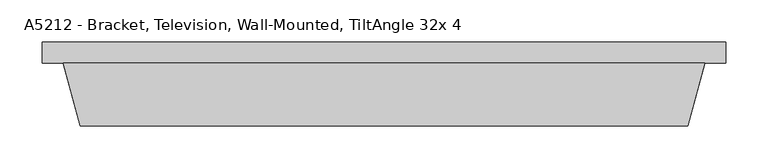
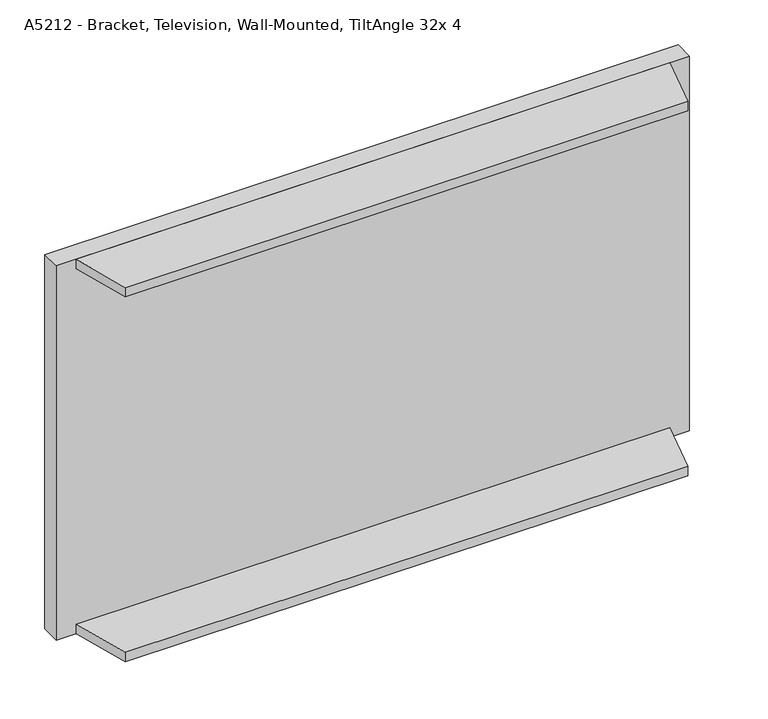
"""IFC4 building model written with IfcOpenShell, lengths in millimetres: proxy geometry."""

from ifc_helpers import new_model, si_unit, frame, origin, origin_with_axes, place, context, project, spatial, polyline, outline, extrude, source, transform, mapped, element, save


def a5212_bracket_television_wall_mounted_tiltangle_32x_4_8d2e6d10(model_context):
    return source(origin(), model_context, "Body", "SweptSolid", [
        extrude(outline(polyline([(25.4, 74.6), (787.4, 74.6), (767.4109902, 0.0), (45.3890098, 0.0), (25.4, 74.6)])), frame((0.0, 0.0, 495.3), z_axis=(0.0, 0.0, 1.0), x_axis=(1.0, 0.0, 0.0)), (0.0, 0.0, 1.0), 12.7),
        extrude(outline(polyline([(25.4, 74.6), (787.4, 74.6), (767.4109902, 0.0), (45.3890098, 0.0), (25.4, 74.6)])), origin_with_axes(), (0.0, 0.0, 1.0), 12.7),
        extrude(outline(polyline([(812.8, 100.0), (812.8, 74.6), (0.0, 74.6), (0.0, 100.0), (812.8, 100.0)])), origin_with_axes(), (0.0, 0.0, 1.0), 508.0),
    ])


if __name__ == "__main__":
    model = new_model("IFC4")
    model_context = context("Model", 3, world=origin())
    ifc_project = project(units=[si_unit("LENGTHUNIT", "METRE", prefix="MILLI")], contexts=[model_context])
    site = spatial("IfcSite", under=ifc_project)
    building = spatial("IfcBuilding", under=site)
    placement = place(None, origin())
    a5212_bracket_television_wall_mounted_tiltangle_32x_4_shape = a5212_bracket_television_wall_mounted_tiltangle_32x_4_8d2e6d10(model_context)
    element("IfcBuildingElementProxy", 1, Name="A5212 - Bracket, Television, Wall-Mounted, TiltAngle 32x 4 : A5212 - Bracket, Television, Wall-Mounted, Tilt/Angle 32\"x 4\"", ObjectType="A5212 - Bracket, Television, Wall-Mounted, TiltAngle 32x 4 : A5212 - Bracket, Television, Wall-Mounted, Tilt/Angle 32\"x 4\"", at=placement, inside=building, context=model_context, shape_type="MappedRepresentation", body=[
        mapped(a5212_bracket_television_wall_mounted_tiltangle_32x_4_shape, transform((0.0, 0.0, 0.0), x_axis=(1.0, 0.0, 0.0), y_axis=(0.0, 1.0, 0.0), z_axis=(0.0, 0.0, 1.0))),
    ])
    save(model, "model.ifc")
